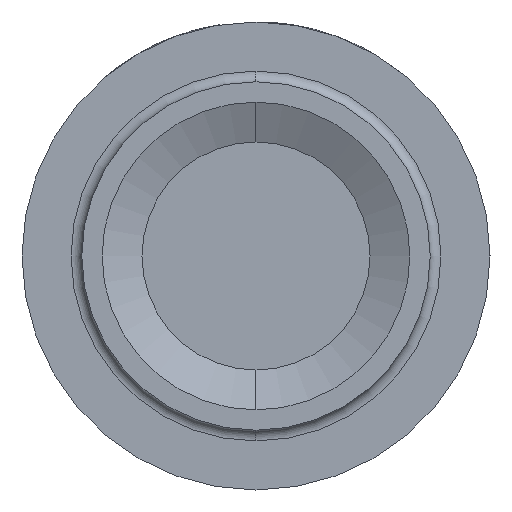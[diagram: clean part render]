
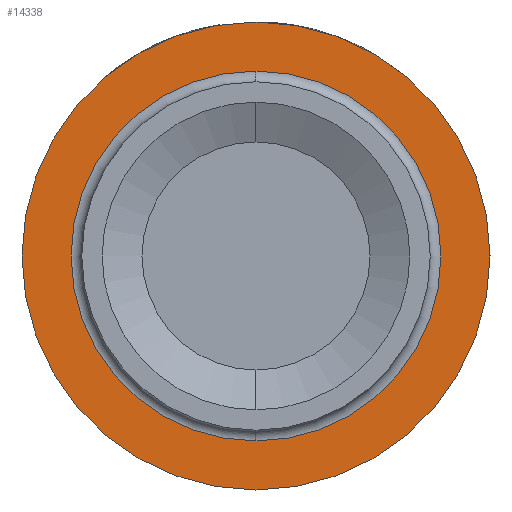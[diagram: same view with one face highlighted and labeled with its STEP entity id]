
A CAD part, left-side view. The second image highlights one B-rep face of the part: STEP entity #14338.
In plain terms, the highlighted planar face has unit normal (-1, 0, 0).
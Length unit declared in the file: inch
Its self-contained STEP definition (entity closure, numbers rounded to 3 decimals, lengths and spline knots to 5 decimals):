
#23 = VERTEX_POINT ( 'NONE', #478 ) ;
#478 = CARTESIAN_POINT ( 'NONE',  ( -0.14, 0., 0.2186 ) ) ;
#1713 = DIRECTION ( 'NONE',  ( 0., 0., -1. ) ) ;
#1783 = CARTESIAN_POINT ( 'NONE',  ( -0.14, 0., 0. ) ) ;
#1884 = DIRECTION ( 'NONE',  ( 1., 0., 0. ) ) ;
#1962 = DIRECTION ( 'NONE',  ( 0., 0., -1. ) ) ;
#2128 = CARTESIAN_POINT ( 'NONE',  ( -0.14, 0., 0. ) ) ;
#2175 = CIRCLE ( 'NONE', #17099, 0.2186 ) ;
#2513 = EDGE_LOOP ( 'NONE', ( #16355, #16324 ) ) ;
#2889 = DIRECTION ( 'NONE',  ( 0., 0., -1. ) ) ;
#3472 = CIRCLE ( 'NONE', #17823, 0.2186 ) ;
#3511 = CARTESIAN_POINT ( 'NONE',  ( -0.14, 0.17275, 0. ) ) ;
#3616 = CIRCLE ( 'NONE', #17959, 0.17275 ) ;
#4266 = CARTESIAN_POINT ( 'NONE',  ( -0.14, 0., 0. ) ) ;
#4268 = VERTEX_POINT ( 'NONE', #10516 ) ;
#4870 = EDGE_CURVE ( 'NONE', #8541, #4268, #7658, .T. ) ;
#5087 = ORIENTED_EDGE ( 'NONE', *, *, #7831, .F. ) ;
#7145 = DIRECTION ( 'NONE',  ( 1., 0., 0. ) ) ;
#7193 = VERTEX_POINT ( 'NONE', #16060 ) ;
#7356 = ORIENTED_EDGE ( 'NONE', *, *, #15611, .F. ) ;
#7658 = CIRCLE ( 'NONE', #11806, 0.17275 ) ;
#7831 = EDGE_CURVE ( 'NONE', #7193, #23, #3472, .T. ) ;
#8541 = VERTEX_POINT ( 'NONE', #13198 ) ;
#8914 = PLANE ( 'NONE',  #11458 ) ;
#8999 = FACE_OUTER_BOUND ( 'NONE', #15818, .T. ) ;
#9087 = DIRECTION ( 'NONE',  ( 0., 0., 1. ) ) ;
#10516 = CARTESIAN_POINT ( 'NONE',  ( -0.14, 0., 0.17275 ) ) ;
#11310 = CARTESIAN_POINT ( 'NONE',  ( -0.14, 0., 0. ) ) ;
#11458 = AXIS2_PLACEMENT_3D ( 'NONE', #3511, #17632, #9087 ) ;
#11806 = AXIS2_PLACEMENT_3D ( 'NONE', #2128, #11846, #14843 ) ;
#11846 = DIRECTION ( 'NONE',  ( 1., 0., 0. ) ) ;
#13198 = CARTESIAN_POINT ( 'NONE',  ( -0.14, 0., -0.17275 ) ) ;
#13402 = FACE_BOUND ( 'NONE', #2513, .T. ) ;
#14262 = DIRECTION ( 'NONE',  ( 1., 0., 0. ) ) ;
#14338 = ADVANCED_FACE ( 'NONE', ( #13402, #8999 ), #8914, .T. ) ;
#14843 = DIRECTION ( 'NONE',  ( 0., 0., -1. ) ) ;
#15611 = EDGE_CURVE ( 'NONE', #23, #7193, #2175, .T. ) ;
#15818 = EDGE_LOOP ( 'NONE', ( #5087, #7356 ) ) ;
#16060 = CARTESIAN_POINT ( 'NONE',  ( -0.14, 0., -0.2186 ) ) ;
#16324 = ORIENTED_EDGE ( 'NONE', *, *, #17260, .T. ) ;
#16355 = ORIENTED_EDGE ( 'NONE', *, *, #4870, .T. ) ;
#17099 = AXIS2_PLACEMENT_3D ( 'NONE', #1783, #7145, #1962 ) ;
#17260 = EDGE_CURVE ( 'NONE', #4268, #8541, #3616, .T. ) ;
#17632 = DIRECTION ( 'NONE',  ( -1., 0., 0. ) ) ;
#17823 = AXIS2_PLACEMENT_3D ( 'NONE', #11310, #1884, #2889 ) ;
#17959 = AXIS2_PLACEMENT_3D ( 'NONE', #4266, #14262, #1713 ) ;
